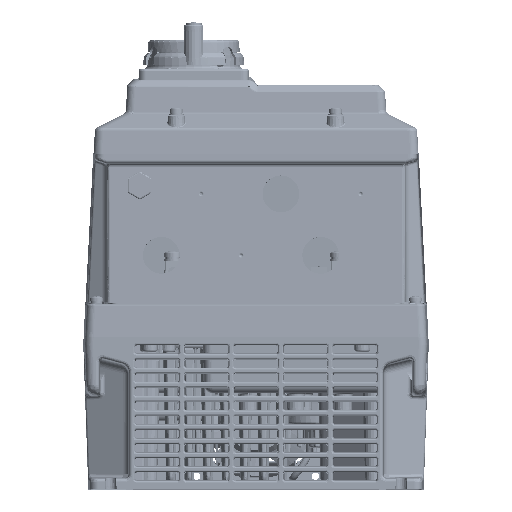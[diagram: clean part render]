
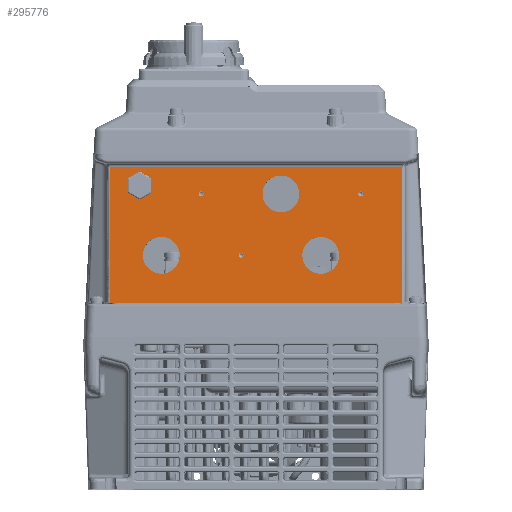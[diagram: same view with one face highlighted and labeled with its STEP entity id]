
A CAD part, top view. The second image highlights one B-rep face of the part: STEP entity #295776.
In plain terms, the highlighted planar face has unit normal (0, 0.018, 1).
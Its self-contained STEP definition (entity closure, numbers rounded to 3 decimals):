
#273976=CARTESIAN_POINT('',(-33.,83.923,-9.895));
#273977=DIRECTION('',(0.,-0.017,-1.));
#273978=DIRECTION('',(-1.,0.,0.));
#273979=AXIS2_PLACEMENT_3D('',#273976,#273977,#273978);
#273981=CARTESIAN_POINT('',(-33.,83.923,-9.895));
#273982=DIRECTION('',(0.,-0.017,-1.));
#273983=DIRECTION('',(1.,0.,0.));
#273984=AXIS2_PLACEMENT_3D('',#273981,#273982,#273983);
#273986=CARTESIAN_POINT('',(-9.,46.935,-9.249));
#273987=DIRECTION('',(0.,-0.017,-1.));
#273988=DIRECTION('',(-1.,0.,0.));
#273989=AXIS2_PLACEMENT_3D('',#273986,#273987,#273988);
#273991=CARTESIAN_POINT('',(-9.,46.935,-9.249));
#273992=DIRECTION('',(0.,-0.017,-1.));
#273993=DIRECTION('',(1.,0.,0.));
#273994=AXIS2_PLACEMENT_3D('',#273991,#273992,#273993);
#273996=CARTESIAN_POINT('',(63.,83.923,-9.895));
#273997=DIRECTION('',(0.,-0.017,-1.));
#273998=DIRECTION('',(-1.,0.,0.));
#273999=AXIS2_PLACEMENT_3D('',#273996,#273997,#273998);
#274001=CARTESIAN_POINT('',(63.,83.923,-9.895));
#274002=DIRECTION('',(0.,-0.017,-1.));
#274003=DIRECTION('',(1.,0.,0.));
#274004=AXIS2_PLACEMENT_3D('',#274001,#274002,#274003);
#274006=DIRECTION('',(-1.,0.,0.));
#274007=VECTOR('',#274006,175.568);
#274008=CARTESIAN_POINT('',(87.784,18.507,
-8.753));
#274009=LINE('',#274008,#274007);
#274010=DIRECTION('',(-0.001,1.,-0.017));
#274011=VECTOR('',#274010,6.187);
#274012=CARTESIAN_POINT('',(-87.784,18.507,
-8.753));
#274013=LINE('',#274012,#274011);
#274014=CARTESIAN_POINT('',(-87.788,24.693,
-8.861));
#274015=CARTESIAN_POINT('',(-87.793,34.05,
-9.024));
#274016=CARTESIAN_POINT('',(-87.814,52.107,
-9.339));
#274017=CARTESIAN_POINT('',(-87.869,77.266,
-9.779));
#274018=CARTESIAN_POINT('',(-87.917,92.669,
-10.047));
#274019=CARTESIAN_POINT('',(-87.943,100.035,
-10.176));
#274021=DIRECTION('',(-1.,0.,0.));
#274022=VECTOR('',#274021,175.887);
#274023=CARTESIAN_POINT('',(87.943,100.035,
-10.176));
#274024=LINE('',#274023,#274022);
#274025=CARTESIAN_POINT('',(87.943,100.035,
-10.176));
#274026=CARTESIAN_POINT('',(87.916,92.266,
-10.04));
#274027=CARTESIAN_POINT('',(87.867,76.331,
-9.762));
#274028=CARTESIAN_POINT('',(87.814,51.582,
-9.33));
#274029=CARTESIAN_POINT('',(87.793,33.827,
-9.02));
#274030=CARTESIAN_POINT('',(87.788,24.693,
-8.861));
#274032=DIRECTION('',(-0.001,-1.,0.017));
#274033=VECTOR('',#274032,6.187);
#274034=CARTESIAN_POINT('',(87.788,24.693,
-8.861));
#274035=LINE('',#274034,#274033);
#274036=CARTESIAN_POINT('',(-57.,46.935,-9.249));
#274037=DIRECTION('',(0.,0.017,1.));
#274038=DIRECTION('',(1.,0.,0.));
#274039=AXIS2_PLACEMENT_3D('',#274036,#274037,#274038);
#274041=CARTESIAN_POINT('',(-57.,46.935,-9.249));
#274042=DIRECTION('',(0.,0.017,1.));
#274043=DIRECTION('',(-1.,0.,0.));
#274044=AXIS2_PLACEMENT_3D('',#274041,#274042,#274043);
#274046=CARTESIAN_POINT('',(39.,46.935,-9.249));
#274047=DIRECTION('',(0.,0.017,1.));
#274048=DIRECTION('',(1.,0.,0.));
#274049=AXIS2_PLACEMENT_3D('',#274046,#274047,#274048);
#274051=CARTESIAN_POINT('',(39.,46.935,-9.249));
#274052=DIRECTION('',(0.,0.017,1.));
#274053=DIRECTION('',(-1.,0.,0.));
#274054=AXIS2_PLACEMENT_3D('',#274051,#274052,#274053);
#274056=CARTESIAN_POINT('',(15.,83.923,-9.895));
#274057=DIRECTION('',(0.,0.017,1.));
#274058=DIRECTION('',(1.,0.,0.));
#274059=AXIS2_PLACEMENT_3D('',#274056,#274057,#274058);
#274061=CARTESIAN_POINT('',(15.,83.923,-9.895));
#274062=DIRECTION('',(0.,0.017,1.));
#274063=DIRECTION('',(-1.,0.,0.));
#274064=AXIS2_PLACEMENT_3D('',#274061,#274062,#274063);
#274066=CARTESIAN_POINT('',(-70.,88.922,-9.982));
#274067=DIRECTION('',(0.,0.017,1.));
#274068=DIRECTION('',(1.,0.,0.));
#274069=AXIS2_PLACEMENT_3D('',#274066,#274067,#274068);
#274071=CARTESIAN_POINT('',(-70.,88.922,-9.982));
#274072=DIRECTION('',(0.,0.017,1.));
#274073=DIRECTION('',(-1.,0.,0.));
#274074=AXIS2_PLACEMENT_3D('',#274071,#274072,#274073);
#274108=CARTESIAN_POINT('',(87.943,100.035,
-10.176));
#281560=CARTESIAN_POINT('',(87.784,18.507,
-8.753));
#281561=CARTESIAN_POINT('',(-87.784,18.507,
-8.753));
#281562=VERTEX_POINT('',#281560);
#281563=VERTEX_POINT('',#281561);
#281569=CARTESIAN_POINT('',(87.788,24.693,
-8.861));
#281571=VERTEX_POINT('',#281569);
#281573=CARTESIAN_POINT('',(-87.788,24.693,
-8.861));
#281575=VERTEX_POINT('',#281573);
#281584=VERTEX_POINT('',#274108);
#281587=CARTESIAN_POINT('',(-87.943,100.035,
-10.176));
#281588=VERTEX_POINT('',#281587);
#281615=CARTESIAN_POINT('',(-34.507,83.923,
-9.895));
#281616=CARTESIAN_POINT('',(-31.493,83.923,
-9.895));
#281617=VERTEX_POINT('',#281615);
#281618=VERTEX_POINT('',#281616);
#281623=CARTESIAN_POINT('',(-10.507,46.935,
-9.249));
#281624=CARTESIAN_POINT('',(-7.493,46.935,
-9.249));
#281625=VERTEX_POINT('',#281623);
#281626=VERTEX_POINT('',#281624);
#281631=CARTESIAN_POINT('',(61.493,83.923,
-9.895));
#281632=CARTESIAN_POINT('',(64.507,83.923,
-9.895));
#281633=VERTEX_POINT('',#281631);
#281634=VERTEX_POINT('',#281632);
#287974=CARTESIAN_POINT('',(-45.9,46.935,-9.249));
#287975=CARTESIAN_POINT('',(-68.1,46.935,-9.249));
#287976=VERTEX_POINT('',#287974);
#287977=VERTEX_POINT('',#287975);
#287978=CARTESIAN_POINT('',(50.1,46.935,-9.249));
#287979=CARTESIAN_POINT('',(27.9,46.935,-9.249));
#287980=VERTEX_POINT('',#287978);
#287981=VERTEX_POINT('',#287979);
#287982=CARTESIAN_POINT('',(26.1,83.923,-9.895));
#287983=CARTESIAN_POINT('',(3.9,83.923,-9.895));
#287984=VERTEX_POINT('',#287982);
#287985=VERTEX_POINT('',#287983);
#287986=CARTESIAN_POINT('',(-64.,88.922,-9.982));
#287987=CARTESIAN_POINT('',(-76.,88.922,-9.982));
#287988=VERTEX_POINT('',#287986);
#287989=VERTEX_POINT('',#287987);
#295715=CARTESIAN_POINT('',(-106.01,4.035,
-8.5));
#295716=DIRECTION('',(0.,-0.017,-1.));
#295717=DIRECTION('',(1.,0.,0.));
#295718=AXIS2_PLACEMENT_3D('',#295715,#295716,#295717);
#295719=PLANE('',#295718);
#295721=ORIENTED_EDGE('',*,*,#295720,.T.);
#295723=ORIENTED_EDGE('',*,*,#295722,.T.);
#295725=ORIENTED_EDGE('',*,*,#295724,.T.);
#295727=ORIENTED_EDGE('',*,*,#295726,.F.);
#295729=ORIENTED_EDGE('',*,*,#295728,.T.);
#295731=ORIENTED_EDGE('',*,*,#295730,.T.);
#295732=EDGE_LOOP('',(#295721,#295723,#295725,#295727,#295729,#295731));
#295733=FACE_OUTER_BOUND('',#295732,.F.);
#295735=ORIENTED_EDGE('',*,*,#295734,.F.);
#295737=ORIENTED_EDGE('',*,*,#295736,.F.);
#295738=EDGE_LOOP('',(#295735,#295737));
#295739=FACE_BOUND('',#295738,.F.);
#295741=ORIENTED_EDGE('',*,*,#295740,.F.);
#295743=ORIENTED_EDGE('',*,*,#295742,.F.);
#295744=EDGE_LOOP('',(#295741,#295743));
#295745=FACE_BOUND('',#295744,.F.);
#295747=ORIENTED_EDGE('',*,*,#295746,.F.);
#295749=ORIENTED_EDGE('',*,*,#295748,.F.);
#295750=EDGE_LOOP('',(#295747,#295749));
#295751=FACE_BOUND('',#295750,.F.);
#295753=ORIENTED_EDGE('',*,*,#295752,.T.);
#295755=ORIENTED_EDGE('',*,*,#295754,.T.);
#295756=EDGE_LOOP('',(#295753,#295755));
#295757=FACE_BOUND('',#295756,.F.);
#295759=ORIENTED_EDGE('',*,*,#295758,.T.);
#295761=ORIENTED_EDGE('',*,*,#295760,.T.);
#295762=EDGE_LOOP('',(#295759,#295761));
#295763=FACE_BOUND('',#295762,.F.);
#295765=ORIENTED_EDGE('',*,*,#295764,.T.);
#295767=ORIENTED_EDGE('',*,*,#295766,.T.);
#295768=EDGE_LOOP('',(#295765,#295767));
#295769=FACE_BOUND('',#295768,.F.);
#295771=ORIENTED_EDGE('',*,*,#295770,.T.);
#295773=ORIENTED_EDGE('',*,*,#295772,.T.);
#295774=EDGE_LOOP('',(#295771,#295773));
#295775=FACE_BOUND('',#295774,.F.);
#295776=ADVANCED_FACE('',(#295733,#295739,#295745,#295751,#295757,#295763,
#295769,#295775),#295719,.F.);
#273980=CIRCLE('',#273979,1.507);
#273985=CIRCLE('',#273984,1.507);
#273990=CIRCLE('',#273989,1.507);
#273995=CIRCLE('',#273994,1.507);
#274000=CIRCLE('',#273999,1.507);
#274005=CIRCLE('',#274004,1.507);
#274020=B_SPLINE_CURVE_WITH_KNOTS('',3,(#274014,#274015,#274016,#274017,#274018,
#274019),.UNSPECIFIED.,.F.,.F.,(4,1,1,4),(0.,0.333,
0.667,1.),.UNSPECIFIED.);
#274031=B_SPLINE_CURVE_WITH_KNOTS('',3,(#274025,#274026,#274027,#274028,#274029,
#274030),.UNSPECIFIED.,.F.,.F.,(4,1,1,4),(0.,0.333,
0.667,1.),.UNSPECIFIED.);
#274040=CIRCLE('',#274039,11.1);
#274045=CIRCLE('',#274044,11.1);
#274050=CIRCLE('',#274049,11.1);
#274055=CIRCLE('',#274054,11.1);
#274060=CIRCLE('',#274059,11.1);
#274065=CIRCLE('',#274064,11.1);
#274070=CIRCLE('',#274069,6.);
#274075=CIRCLE('',#274074,6.);
#295720=EDGE_CURVE('',#281562,#281563,#274009,.T.);
#295722=EDGE_CURVE('',#281563,#281575,#274013,.T.);
#295724=EDGE_CURVE('',#281575,#281588,#274020,.T.);
#295726=EDGE_CURVE('',#281584,#281588,#274024,.T.);
#295728=EDGE_CURVE('',#281584,#281571,#274031,.T.);
#295730=EDGE_CURVE('',#281571,#281562,#274035,.T.);
#295734=EDGE_CURVE('',#281625,#281626,#273990,.T.);
#295736=EDGE_CURVE('',#281626,#281625,#273995,.T.);
#295740=EDGE_CURVE('',#281633,#281634,#274000,.T.);
#295742=EDGE_CURVE('',#281634,#281633,#274005,.T.);
#295746=EDGE_CURVE('',#281617,#281618,#273980,.T.);
#295748=EDGE_CURVE('',#281618,#281617,#273985,.T.);
#295752=EDGE_CURVE('',#287976,#287977,#274040,.T.);
#295754=EDGE_CURVE('',#287977,#287976,#274045,.T.);
#295758=EDGE_CURVE('',#287980,#287981,#274050,.T.);
#295760=EDGE_CURVE('',#287981,#287980,#274055,.T.);
#295764=EDGE_CURVE('',#287984,#287985,#274060,.T.);
#295766=EDGE_CURVE('',#287985,#287984,#274065,.T.);
#295770=EDGE_CURVE('',#287988,#287989,#274070,.T.);
#295772=EDGE_CURVE('',#287989,#287988,#274075,.T.);
